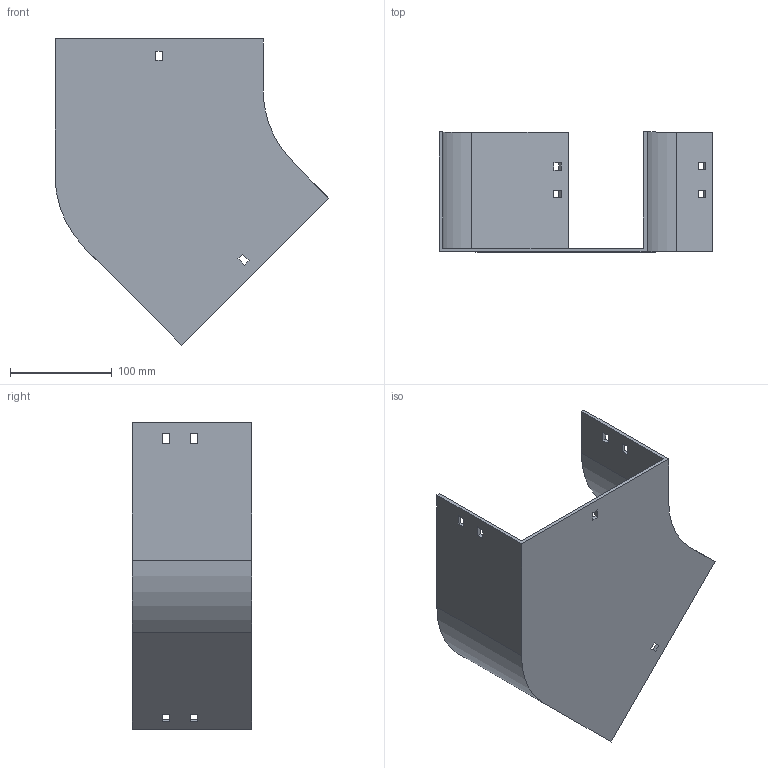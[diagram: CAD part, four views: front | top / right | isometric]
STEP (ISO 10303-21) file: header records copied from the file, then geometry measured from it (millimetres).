
FILE_DESCRIPTION (( 'STEP AP214' ), '1' );
FILE_NAME ('11B1J200.step', '2025-02-21T09:37:05', ( '' ), ( '' ), 'SwSTEP 2.0', 'SolidWorks 2023', '' );
FILE_SCHEMA (( 'AUTOMOTIVE_DESIGN' ));
Length unit declared in the file: millimetre
Products named in the file (1): 11B1J200
Bounding box: 268.64 x 117.5 x 300.32 mm (x, y, z)
Volume: 398418.3 mm3; surface area: 233701.9 mm2
Topology: 1 solids, 1 shells, 58 faces, 168 edges, 112 vertices
Faces by surface type: plane 54, cylinder 4
Entity records: 1943 total; most frequent: CARTESIAN_POINT 339, ORIENTED_EDGE 336, DIRECTION 294, EDGE_CURVE 168, LINE 160, VECTOR 160, VERTEX_POINT 112, EDGE_LOOP 78
